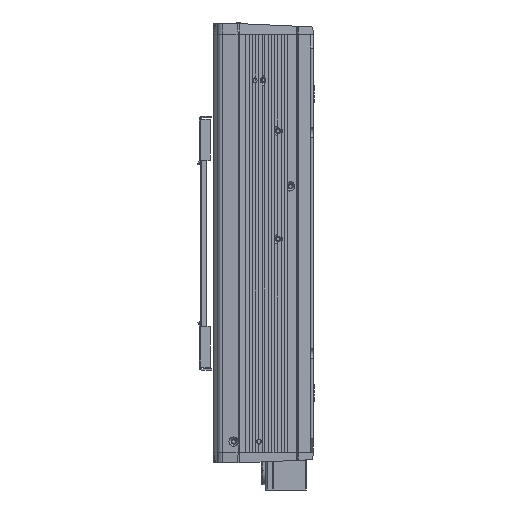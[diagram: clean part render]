
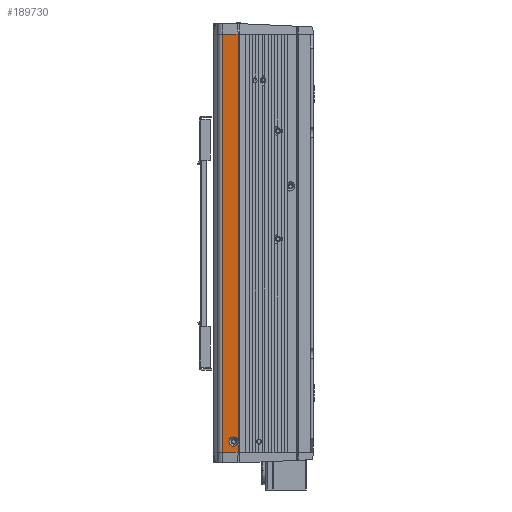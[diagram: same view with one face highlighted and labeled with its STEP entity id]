
A CAD part, left-side view. The second image highlights one B-rep face of the part: STEP entity #189730.
In plain terms, the highlighted planar face has unit normal (-0.995, 0.104, 0).
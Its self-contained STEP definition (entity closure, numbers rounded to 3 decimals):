
#169680=CARTESIAN_POINT('',(1976.316,87.804,68.363))
;
#169690=VERTEX_POINT('',#169680);
#169720=CARTESIAN_POINT('',(1967.087,0.,68.363));
#169730=DIRECTION('',(-0.105,-0.995,0.));
#169740=VECTOR('',#169730,1.);
#169750=LINE('',#169720,#169740);
#169760=CARTESIAN_POINT('',(1975.16,76.805,68.363))
;
#169770=VERTEX_POINT('',#169760);
#169780=EDGE_CURVE('',#169690,#169770,#169750,.T.);
#175400=CARTESIAN_POINT('',(1975.16,76.805,361.251
));
#175410=VERTEX_POINT('',#175400);
#175440=CARTESIAN_POINT('',(1967.087,0.,361.251));
#175450=DIRECTION('',(0.105,0.995,0.));
#175460=VECTOR('',#175450,1.);
#175470=LINE('',#175440,#175460);
#175480=CARTESIAN_POINT('',(1976.316,87.804,361.251));
#175490=VERTEX_POINT('',#175480);
#175500=EDGE_CURVE('',#175410,#175490,#175470,.T.);
#189030=CARTESIAN_POINT('',(1976.316,87.804,361.251));
#189040=DIRECTION('',(0.,0.,-1.));
#189050=VECTOR('',#189040,292.888);
#189060=LINE('',#189030,#189050);
#189070=EDGE_CURVE('',#175490,#169690,#189060,.T.);
#189120=CARTESIAN_POINT('',(1976.603,90.531,122.9));
#189130=DIRECTION('',(0.995,-0.105,0.));
#189140=DIRECTION('',(0.105,0.995,0.));
#189150=AXIS2_PLACEMENT_3D('',#189120,#189130,#189140);
#189160=PLANE('',#189150);
#189170=ORIENTED_EDGE('',*,*,#175500,.T.);
#189180=CARTESIAN_POINT('',(1975.16,76.805,0.));
#189190=DIRECTION('',(0.,0.,-1.));
#189200=VECTOR('',#189190,1.);
#189210=LINE('',#189180,#189200);
#189220=CARTESIAN_POINT('',(1975.16,76.805,
76.806));
#189230=VERTEX_POINT('',#189220);
#189240=EDGE_CURVE('',#175410,#189230,#189210,.T.);
#189250=ORIENTED_EDGE('',*,*,#189240,.F.);
#189260=CARTESIAN_POINT('',(1975.486,79.907,
79.113));
#189270=CARTESIAN_POINT('',(1975.45,79.569,
79.113));
#189280=CARTESIAN_POINT('',(1975.415,79.231,
79.06));
#189290=CARTESIAN_POINT('',(1975.327,78.396,
78.787));
#189300=CARTESIAN_POINT('',(1975.278,77.931,
78.496));
#189310=CARTESIAN_POINT('',(1975.2,77.189,
77.713));
#189320=CARTESIAN_POINT('',(1975.172,76.918,
77.233));
#189330=CARTESIAN_POINT('',(1975.142,76.637,
76.19));
#189340=CARTESIAN_POINT('',(1975.141,76.629,
75.638));
#189350=CARTESIAN_POINT('',(1975.167,76.877,
74.584));
#189360=CARTESIAN_POINT('',(1975.195,77.135,
74.095));
#189370=CARTESIAN_POINT('',(1975.27,77.857,
73.286));
#189380=CARTESIAN_POINT('',(1975.319,78.317,
72.98));
#189390=CARTESIAN_POINT('',(1975.426,79.338,
72.616));
#189400=CARTESIAN_POINT('',(1975.484,79.886,
72.568));
#189410=CARTESIAN_POINT('',(1975.596,80.954,
72.738));
#189420=CARTESIAN_POINT('',(1975.649,81.455,
72.957));
#189430=CARTESIAN_POINT('',(1975.739,82.311,
73.616));
#189440=CARTESIAN_POINT('',(1975.774,82.648,
74.045));
#189450=CARTESIAN_POINT('',(1975.82,83.087,
75.031));
#189460=CARTESIAN_POINT('',(1975.83,83.18,
75.569));
#189470=CARTESIAN_POINT('',(1975.821,83.099,
76.648));
#189480=CARTESIAN_POINT('',(1975.803,82.925,
77.167));
#189490=CARTESIAN_POINT('',(1975.742,82.339,
78.079));
#189500=CARTESIAN_POINT('',(1975.699,81.938,
78.454));
#189510=CARTESIAN_POINT('',(1975.599,80.987,
78.974));
#189520=CARTESIAN_POINT('',(1975.543,80.454,79.113))
;
#189530=CARTESIAN_POINT('',(1975.486,79.907,
79.113));
#189540=B_SPLINE_CURVE_WITH_KNOTS('',3,(#189260,#189270,#189280,#189290,
#189300,#189310,#189320,#189330,#189340,#189350,#189360,#189370,#189380,
#189390,#189400,#189410,#189420,#189430,#189440,#189450,#189460,#189470,
#189480,#189490,#189500,#189510,#189520,#189530),.UNSPECIFIED.,.T.,.F.,(
1,3,2,2,2,2,2,2,2,2,2,2,2,2,3,1),(-1.272,0.,0.786
,2.008,3.203,4.39,5.589,
6.815,8.068,9.343,10.632,
11.928,13.227,14.519,15.791,
16.577),.UNSPECIFIED.);
#189550=CARTESIAN_POINT('',(1975.486,79.907,
79.113));
#189560=VERTEX_POINT('',#189550);
#189570=EDGE_CURVE('',#189560,#189230,#189540,.T.);
#189580=ORIENTED_EDGE('',*,*,#189570,.T.);
#189590=CARTESIAN_POINT('',(1975.516,80.196,
72.625));
#189600=VERTEX_POINT('',#189590);
#189610=EDGE_CURVE('',#189600,#189560,#189540,.T.);
#189620=ORIENTED_EDGE('',*,*,#189610,.T.);
#189630=CARTESIAN_POINT('',(1975.16,76.805,
74.919));
#189640=VERTEX_POINT('',#189630);
#189650=EDGE_CURVE('',#189640,#189600,#189540,.T.);
#189660=ORIENTED_EDGE('',*,*,#189650,.T.);
#189670=EDGE_CURVE('',#189640,#169770,#189210,.T.);
#189680=ORIENTED_EDGE('',*,*,#189670,.F.);
#189690=ORIENTED_EDGE('',*,*,#169780,.T.);
#189700=ORIENTED_EDGE('',*,*,#189070,.T.);
#189710=EDGE_LOOP('',(#189700,#189690,#189680,#189660,#189620,#189580,
#189250,#189170));
#189720=FACE_OUTER_BOUND('',#189710,.T.);
#189730=ADVANCED_FACE('',(#189720),#189160,.F.);
